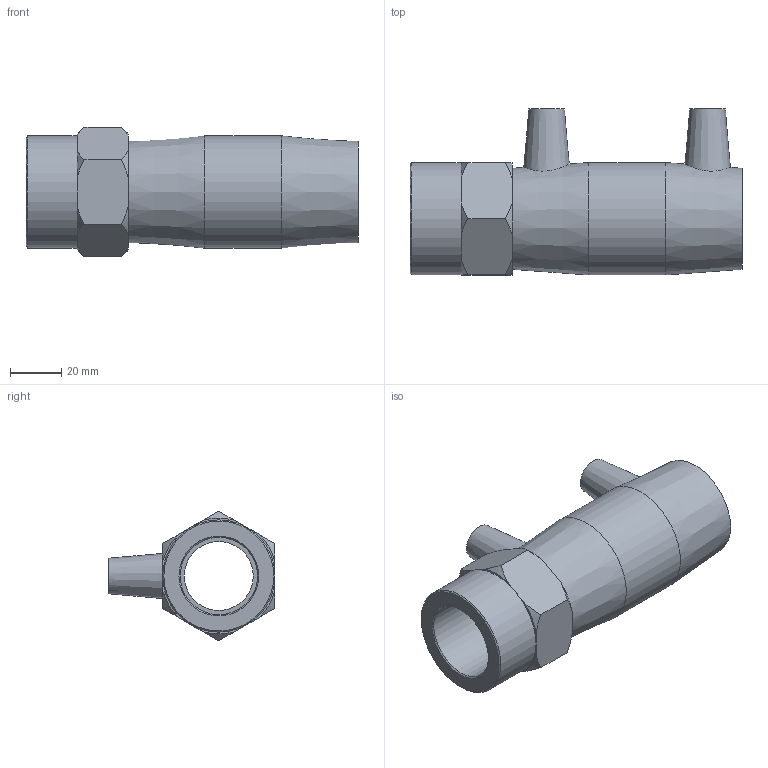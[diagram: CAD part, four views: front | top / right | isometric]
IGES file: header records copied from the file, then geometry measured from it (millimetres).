
Global section: file name: 493104032010N.ipt; native system: Autodesk Inventor 2015; preprocessor: unknown; author: KIM; date: 20200202.122439; units: millimetre
Bounding box: 130 x 65 x 50.81 mm (x, y, z)
Volume: 108683.7 mm3; surface area: 35379.7 mm2
Topology: 1 solids, 1 shells, 54 faces, 130 edges, 86 vertices
Faces by surface type: plane 24, cone 17, revolution 9, cylinder 4
Full cylindrical faces by diameter (mm): 4 x2, 44 x2
